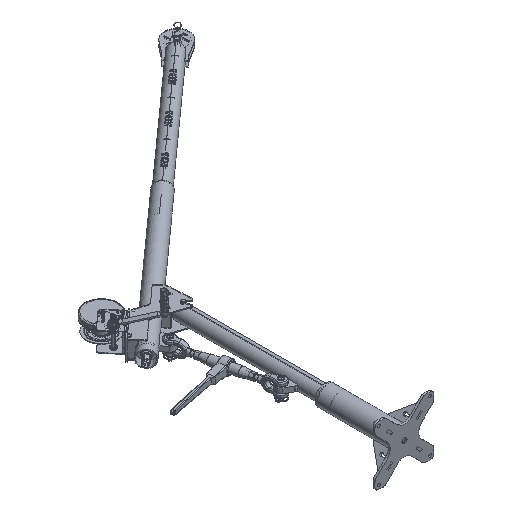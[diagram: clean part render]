
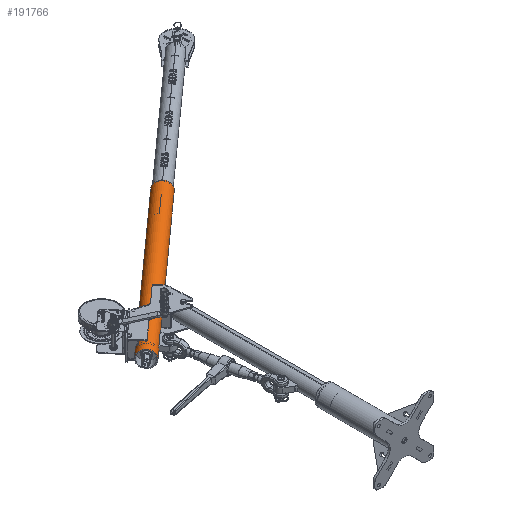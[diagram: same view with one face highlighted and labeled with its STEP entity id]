
A CAD part, isometric view. The second image highlights one B-rep face of the part: STEP entity #191766.
In plain terms, the highlighted cylindrical face has radius 41.275 mm (diameter 82.55 mm), a partial arc.
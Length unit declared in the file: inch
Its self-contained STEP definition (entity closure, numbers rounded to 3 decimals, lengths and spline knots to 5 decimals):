
#2621 = EDGE_CURVE ( 'NONE', #52957, #256475, #252056, .T. ) ;
#8728 = LINE ( 'NONE', #206923, #167024 ) ;
#13580 = EDGE_CURVE ( 'NONE', #277320, #52957, #293027, .T. ) ;
#13713 = DIRECTION ( 'NONE',  ( -1., 0., 0. ) ) ;
#15081 = CARTESIAN_POINT ( 'NONE',  ( 1.625, 0., 40.5 ) ) ;
#15366 = CYLINDRICAL_SURFACE ( 'NONE', #65224, 1.625 ) ;
#27805 = ORIENTED_EDGE ( 'NONE', *, *, #2621, .T. ) ;
#48727 = CARTESIAN_POINT ( 'NONE',  ( 0., 0., 0. ) ) ;
#52957 = VERTEX_POINT ( 'NONE', #193873 ) ;
#65224 = AXIS2_PLACEMENT_3D ( 'NONE', #166850, #293336, #13713 ) ;
#68300 = CARTESIAN_POINT ( 'NONE',  ( -1.625, 0., 40.5 ) ) ;
#82901 = DIRECTION ( 'NONE',  ( 0., 0., 1. ) ) ;
#96544 = DIRECTION ( 'NONE',  ( 0., 0., -1. ) ) ;
#128536 = DIRECTION ( 'NONE',  ( 1., 0., 0. ) ) ;
#129837 = AXIS2_PLACEMENT_3D ( 'NONE', #312541, #82901, #262598 ) ;
#154345 = CARTESIAN_POINT ( 'NONE',  ( -1.625, 0., 40.5 ) ) ;
#155142 = CARTESIAN_POINT ( 'NONE',  ( 1.625, 0., 0. ) ) ;
#156296 = AXIS2_PLACEMENT_3D ( 'NONE', #48727, #306607, #128536 ) ;
#166850 = CARTESIAN_POINT ( 'NONE',  ( 0., 0., 40.5 ) ) ;
#167024 = VECTOR ( 'NONE', #185238, 39.37008 ) ;
#185238 = DIRECTION ( 'NONE',  ( 0., 0., -1. ) ) ;
#191766 = ADVANCED_FACE ( 'NONE', ( #241697 ), #15366, .T. ) ;
#193873 = CARTESIAN_POINT ( 'NONE',  ( -1.625, 0., 0. ) ) ;
#205693 = VERTEX_POINT ( 'NONE', #15081 ) ;
#206923 = CARTESIAN_POINT ( 'NONE',  ( 1.625, 0., 40.5 ) ) ;
#217798 = ORIENTED_EDGE ( 'NONE', *, *, #13580, .T. ) ;
#227997 = ORIENTED_EDGE ( 'NONE', *, *, #295706, .F. ) ;
#241697 = FACE_OUTER_BOUND ( 'NONE', #303539, .T. ) ;
#242433 = EDGE_CURVE ( 'NONE', #277320, #205693, #310398, .T. ) ;
#248710 = ORIENTED_EDGE ( 'NONE', *, *, #242433, .F. ) ;
#252056 = CIRCLE ( 'NONE', #156296, 1.625 ) ;
#256475 = VERTEX_POINT ( 'NONE', #155142 ) ;
#262598 = DIRECTION ( 'NONE',  ( 1., 0., 0. ) ) ;
#277320 = VERTEX_POINT ( 'NONE', #154345 ) ;
#285002 = VECTOR ( 'NONE', #96544, 39.37008 ) ;
#293027 = LINE ( 'NONE', #68300, #285002 ) ;
#293336 = DIRECTION ( 'NONE',  ( 0., 0., -1. ) ) ;
#295706 = EDGE_CURVE ( 'NONE', #205693, #256475, #8728, .T. ) ;
#303539 = EDGE_LOOP ( 'NONE', ( #227997, #248710, #217798, #27805 ) ) ;
#306607 = DIRECTION ( 'NONE',  ( 0., 0., 1. ) ) ;
#310398 = CIRCLE ( 'NONE', #129837, 1.625 ) ;
#312541 = CARTESIAN_POINT ( 'NONE',  ( 0., 0., 40.5 ) ) ;
